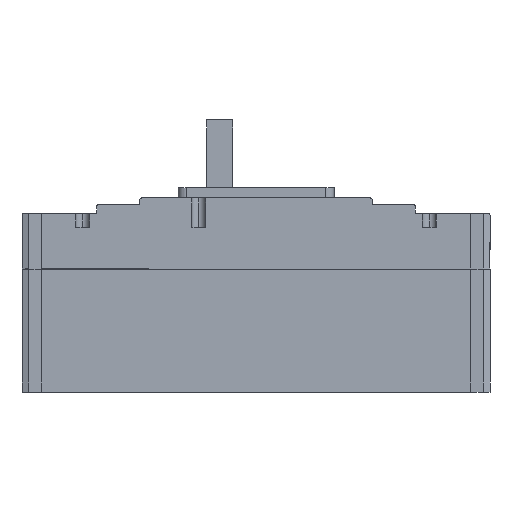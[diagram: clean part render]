
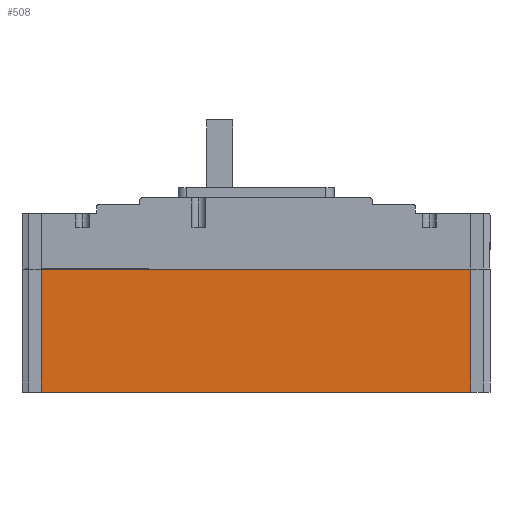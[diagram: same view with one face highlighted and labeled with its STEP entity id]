
A CAD part, left-side view. The second image highlights one B-rep face of the part: STEP entity #508.
In plain terms, the highlighted planar face has unit normal (-1, 0, 0).
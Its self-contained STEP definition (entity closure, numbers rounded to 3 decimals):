
#508 = ADVANCED_FACE ( 'NONE', ( #961 ), #942, .F. ) ;
#520 = EDGE_CURVE ( 'NONE', #8153, #8157, #772, .T. ) ;
#624 = CARTESIAN_POINT ( 'NONE',  ( 0., 11., 0. ) ) ;
#628 = CARTESIAN_POINT ( 'NONE',  ( 0., 259., 0. ) ) ;
#665 = CARTESIAN_POINT ( 'NONE',  ( 0., 11., 70.9 ) ) ;
#756 = DIRECTION ( 'NONE',  ( 0., -1., 0. ) ) ;
#762 = CARTESIAN_POINT ( 'NONE',  ( 0., -117.543, 0. ) ) ;
#772 = LINE ( 'NONE', #762, #6028 ) ;
#930 = CARTESIAN_POINT ( 'NONE',  ( 0., -117.543, 103. ) ) ;
#938 = DIRECTION ( 'NONE',  ( 0., 1., 0. ) ) ;
#941 = DIRECTION ( 'NONE',  ( 1., 0., 0. ) ) ;
#942 = PLANE ( 'NONE',  #6016 ) ;
#961 = FACE_OUTER_BOUND ( 'NONE', #2035, .T. ) ;
#2035 = EDGE_LOOP ( 'NONE', ( #2037, #2038, #2570, #2571 ) ) ;
#2037 = ORIENTED_EDGE ( 'NONE', *, *, #4664, .F. ) ;
#2038 = ORIENTED_EDGE ( 'NONE', *, *, #4662, .T. ) ;
#2570 = ORIENTED_EDGE ( 'NONE', *, *, #520, .T. ) ;
#2571 = ORIENTED_EDGE ( 'NONE', *, *, #4654, .F. ) ;
#2802 = CARTESIAN_POINT ( 'NONE',  ( 0., 259., 70.9 ) ) ;
#4654 = EDGE_CURVE ( 'NONE', #8116, #8157, #8810, .T. ) ;
#4662 = EDGE_CURVE ( 'NONE', #8100, #8153, #8786, .T. ) ;
#4664 = EDGE_CURVE ( 'NONE', #8100, #8116, #8780, .T. ) ;
#6016 = AXIS2_PLACEMENT_3D ( 'NONE', #930, #941, #938 ) ;
#6028 = VECTOR ( 'NONE', #756, 1000. ) ;
#6207 = VECTOR ( 'NONE', #8808, 1000. ) ;
#6215 = VECTOR ( 'NONE', #8784, 1000. ) ;
#6217 = VECTOR ( 'NONE', #8778, 1000. ) ;
#8100 = VERTEX_POINT ( 'NONE', #2802 ) ;
#8116 = VERTEX_POINT ( 'NONE', #665 ) ;
#8153 = VERTEX_POINT ( 'NONE', #628 ) ;
#8157 = VERTEX_POINT ( 'NONE', #624 ) ;
#8778 = DIRECTION ( 'NONE',  ( 0., -1., 0. ) ) ;
#8779 = CARTESIAN_POINT ( 'NONE',  ( 0., -117.543, 70.9 ) ) ;
#8780 = LINE ( 'NONE', #8779, #6217 ) ;
#8784 = DIRECTION ( 'NONE',  ( 0., 0., -1. ) ) ;
#8785 = CARTESIAN_POINT ( 'NONE',  ( 0., 259., 103. ) ) ;
#8786 = LINE ( 'NONE', #8785, #6215 ) ;
#8808 = DIRECTION ( 'NONE',  ( 0., 0., -1. ) ) ;
#8809 = CARTESIAN_POINT ( 'NONE',  ( 0., 11., 103. ) ) ;
#8810 = LINE ( 'NONE', #8809, #6207 ) ;
